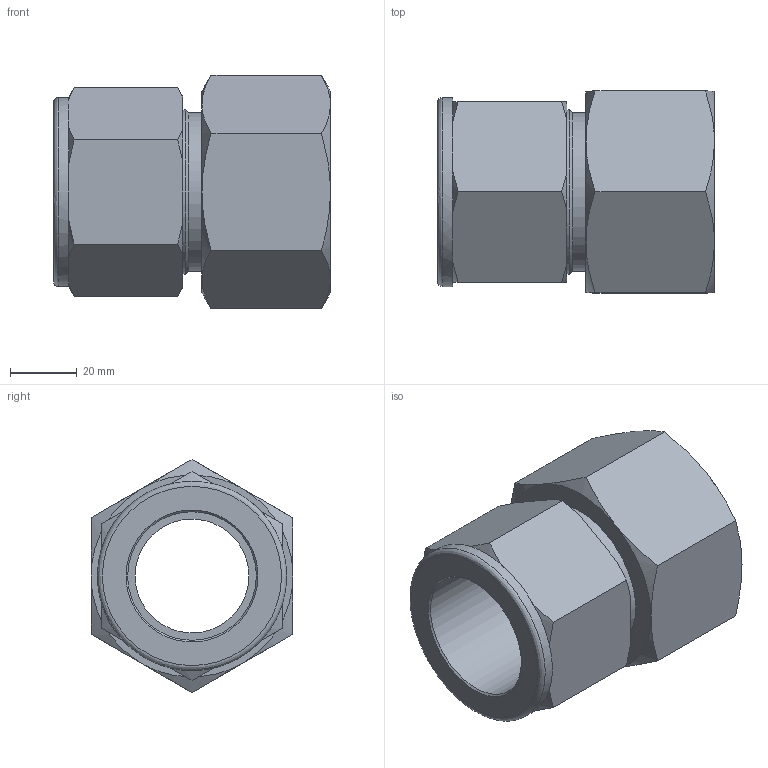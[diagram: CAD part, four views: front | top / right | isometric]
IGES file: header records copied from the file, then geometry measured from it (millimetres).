
Global section: file name: SFC-24-24N; native system: Autodesk Inventor 2016; preprocessor: unknown; author: 배성훈,,11,0; organization: 20151010.065256; date: 20151019.102944; units: millimetre
Bounding box: 82.75 x 60.3 x 69.63 mm (x, y, z)
Volume: 122217 mm3; surface area: 31638.6 mm2
Topology: 1 solids, 1 shells, 59 faces, 146 edges, 92 vertices
Faces by surface type: bspline 59
